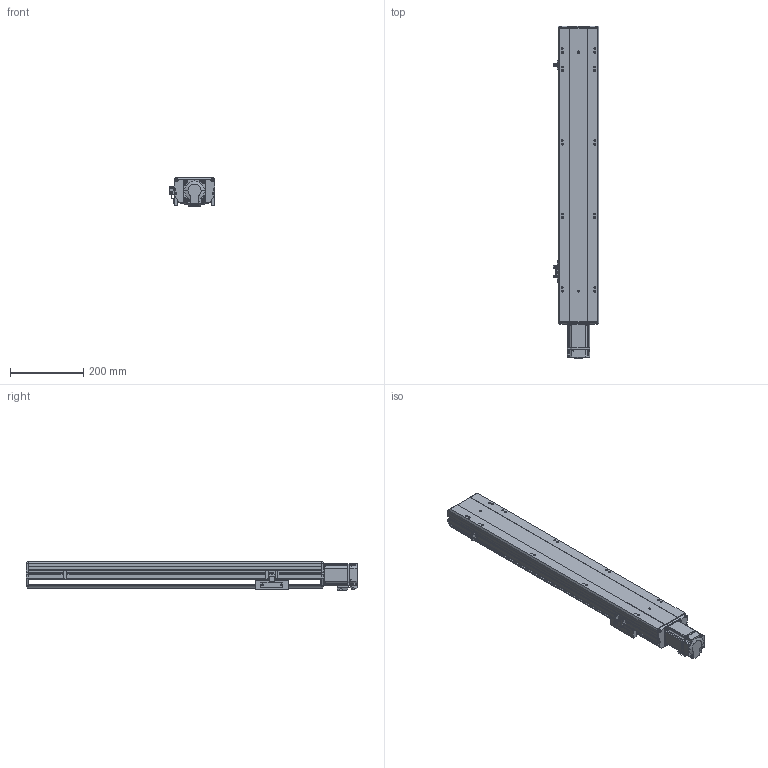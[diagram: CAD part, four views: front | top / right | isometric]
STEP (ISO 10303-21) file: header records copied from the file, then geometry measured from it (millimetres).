
FILE_DESCRIPTION (( 'STEP AP203' ), '1' );
FILE_NAME ('11.STEP', '2020-11-06T08:11:43', ( '' ), ( '' ), 'SwSTEP 2.0', 'SolidWorks 2016', '' );
FILE_SCHEMA (( 'CONFIG_CONTROL_DESIGN' ));
Length unit declared in the file: millimetre
Products named in the file (7): BTH11-BC-HZ; 11; BTH11-BC-02; BTH11-BC-01; BTH11-BC-P20; BTH11-BC-菁釱; BTH11-BC-04
Assembly tree (8 placements, depth 2):
  11
    BTH11-BC-菁釱
    BTH11-BC-01
    BTH11-BC-02
    BTH11-BC-04  x3
    BTH11-BC-HZ
    BTH11-BC-P20
Bounding box: 123.7 x 903.5 x 78.5 mm (x, y, z)
Volume: 3218981.9 mm3; surface area: 637260.7 mm2
Topology: 10 solids, 10 shells, 1367 faces, 3694 edges, 2406 vertices
Faces by surface type: plane 817, cylinder 449, cone 83, torus 16, bspline 2
Entity records: 36754 total; most frequent: CARTESIAN_POINT 6996, DIRECTION 6088, ORIENTED_EDGE 6040, EDGE_CURVE 3020, AXIS2_PLACEMENT_3D 2048, LINE 1992, VECTOR 1992, VERTEX_POINT 1982
